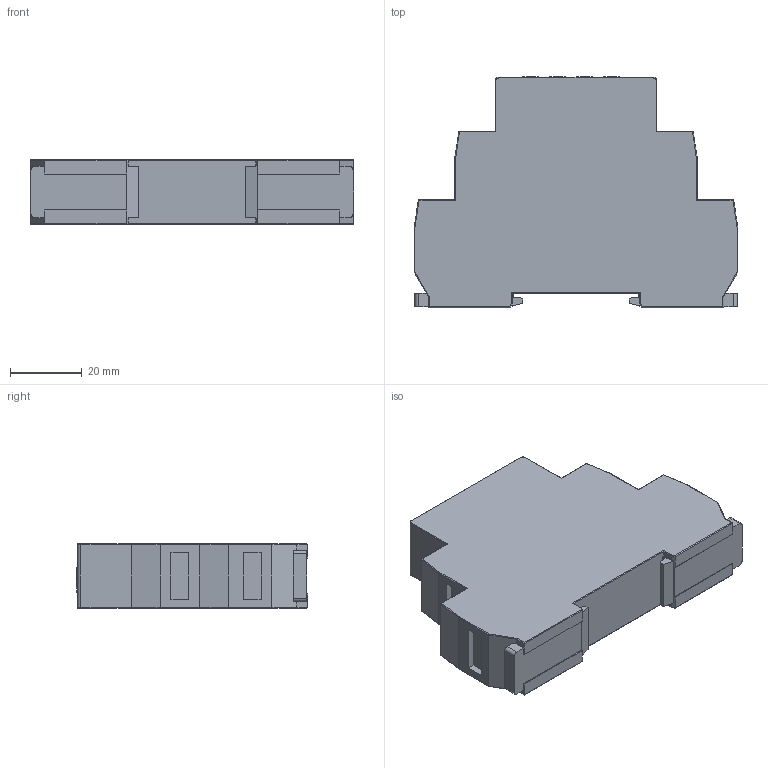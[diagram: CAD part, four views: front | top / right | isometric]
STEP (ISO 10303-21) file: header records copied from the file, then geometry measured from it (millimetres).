
FILE_DESCRIPTION (( 'STEP AP214' ), '1' );
FILE_NAME ('GEYA_GRV8-04D_3D.STEP', '2023-11-02T11:19:18', ( '' ), ( '' ), 'SwSTEP 2.0', 'SolidWorks 2018', '' );
FILE_SCHEMA (( 'AUTOMOTIVE_DESIGN' ));
Length unit declared in the file: millimetre
Products named in the file (1): GEYA_GRV8-04D_3D
Bounding box: 90 x 64.27 x 17.8 mm (x, y, z)
Volume: 78601.7 mm3; surface area: 15836.3 mm2
Topology: 1 solids, 1 shells, 575 faces, 1430 edges, 883 vertices
Faces by surface type: plane 382, cylinder 126, cone 52, sphere 11, torus 4
Entity records: 19761 total; most frequent: CARTESIAN_POINT 3327, ORIENTED_EDGE 2848, DIRECTION 2766, EDGE_CURVE 1424, LINE 938, VECTOR 938, AXIS2_PLACEMENT_3D 914, VERTEX_POINT 883
